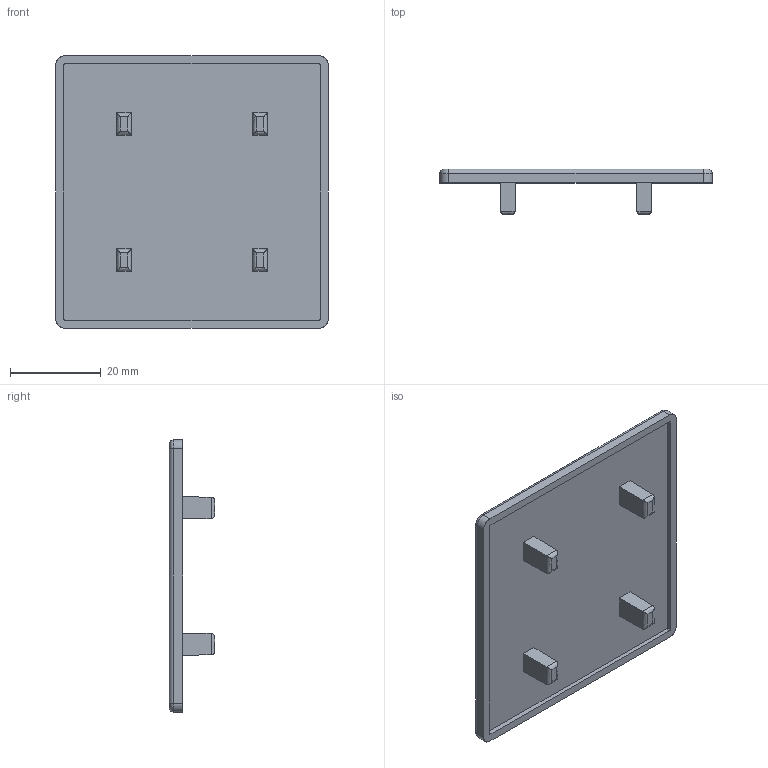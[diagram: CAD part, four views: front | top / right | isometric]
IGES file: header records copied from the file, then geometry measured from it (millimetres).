
Start section: SolidWorks IGES file using analytic representation for surfaces
Global section: file name: C:\Users\admin\Desktop\IGES\J3C66.igs; native system: SolidWorks 2014; preprocessor: SolidWorks 2014; author: admin_pc; date: 170524.165408; units: millimetre
Bounding box: 60 x 10 x 60 mm (x, y, z)
Surface area: 8512.3 mm2 (no closed solid volume)
Topology: 0 solids, 0 shells, 63 faces, 496 edges, 496 vertices
Faces by surface type: bspline 35, revolution 28
